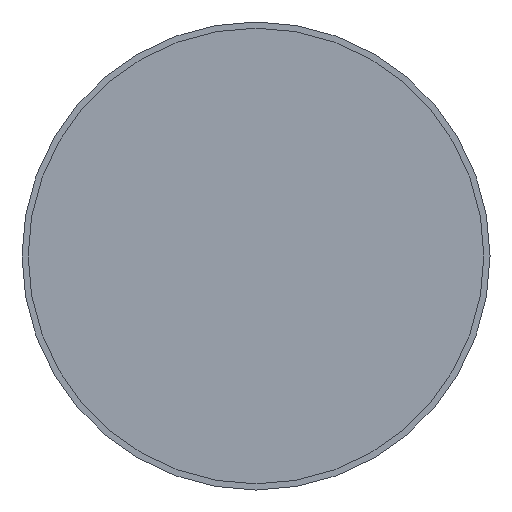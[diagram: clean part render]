
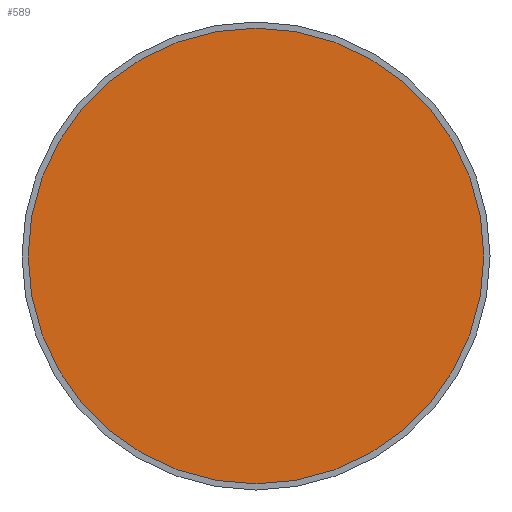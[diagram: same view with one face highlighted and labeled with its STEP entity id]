
A CAD part, front view. The second image highlights one B-rep face of the part: STEP entity #589.
In plain terms, the highlighted planar face has unit normal (0, -1, 0).
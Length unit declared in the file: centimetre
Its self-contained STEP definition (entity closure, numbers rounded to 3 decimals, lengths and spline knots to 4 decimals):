
#136=FACE_OUTER_BOUND('',#204,.T.);
#204=EDGE_LOOP('',(#466));
#275=CIRCLE('',#659,18.5);
#329=VERTEX_POINT('',#1022);
#383=EDGE_CURVE('',#329,#329,#275,.T.);
#466=ORIENTED_EDGE('',*,*,#383,.T.);
#569=PLANE('',#660);
#589=ADVANCED_FACE('',(#136),#569,.F.);
#659=AXIS2_PLACEMENT_3D('',#1023,#783,#784);
#660=AXIS2_PLACEMENT_3D('',#1024,#785,#786);
#783=DIRECTION('center_axis',(0.,-1.,0.));
#784=DIRECTION('ref_axis',(1.,0.,0.));
#785=DIRECTION('center_axis',(0.,1.,0.));
#786=DIRECTION('ref_axis',(0.,0.,1.));
#1022=CARTESIAN_POINT('',(-18.5,0.,0.));
#1023=CARTESIAN_POINT('Origin',(0.,0.,0.));
#1024=CARTESIAN_POINT('Origin',(0.,0.,0.));
